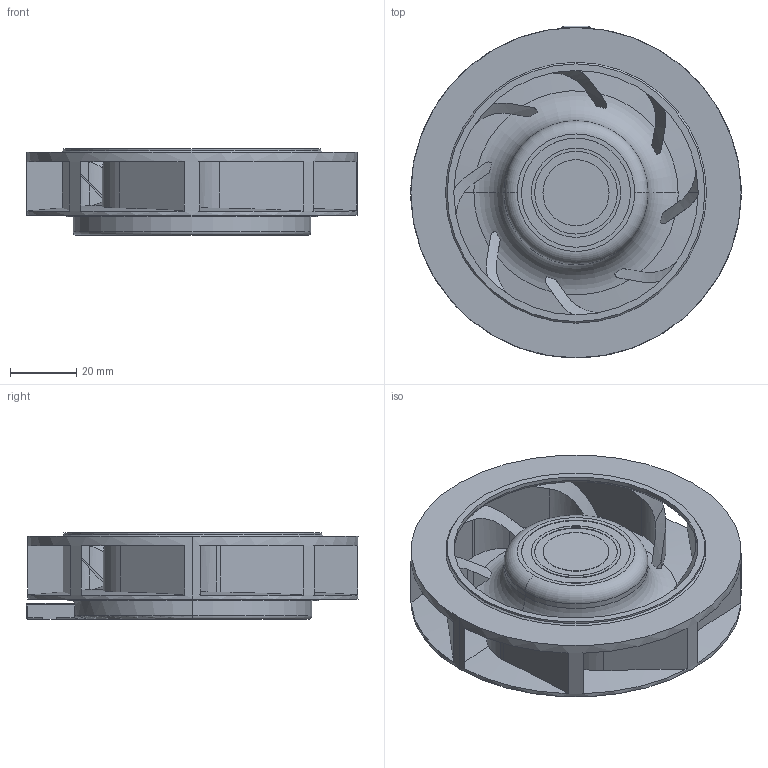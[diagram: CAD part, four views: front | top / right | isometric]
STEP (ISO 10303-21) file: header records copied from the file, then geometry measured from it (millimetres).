
FILE_DESCRIPTION (( 'STEP AP203' ), '1' );
FILE_NAME ('100x25TM.STEP', '2017-02-01T05:14:42', ( '' ), ( '' ), 'SwSTEP 2.0', 'SolidWorks 2016', '' );
FILE_SCHEMA (( 'CONFIG_CONTROL_DESIGN' ));
Length unit declared in the file: millimetre
Products named in the file (1): 100x25TM
Bounding box: 100 x 100.5 x 26.15 mm (x, y, z)
Volume: 92408.5 mm3; surface area: 37463.4 mm2
Topology: 1 solids, 1 shells, 239 faces, 654 edges, 419 vertices
Faces by surface type: cylinder 100, plane 93, cone 29, torus 11, sphere 6
Entity records: 8335 total; most frequent: CARTESIAN_POINT 2346, ORIENTED_EDGE 1300, DIRECTION 1170, EDGE_CURVE 650, AXIS2_PLACEMENT_3D 451, VERTEX_POINT 419, LINE 268, VECTOR 268
